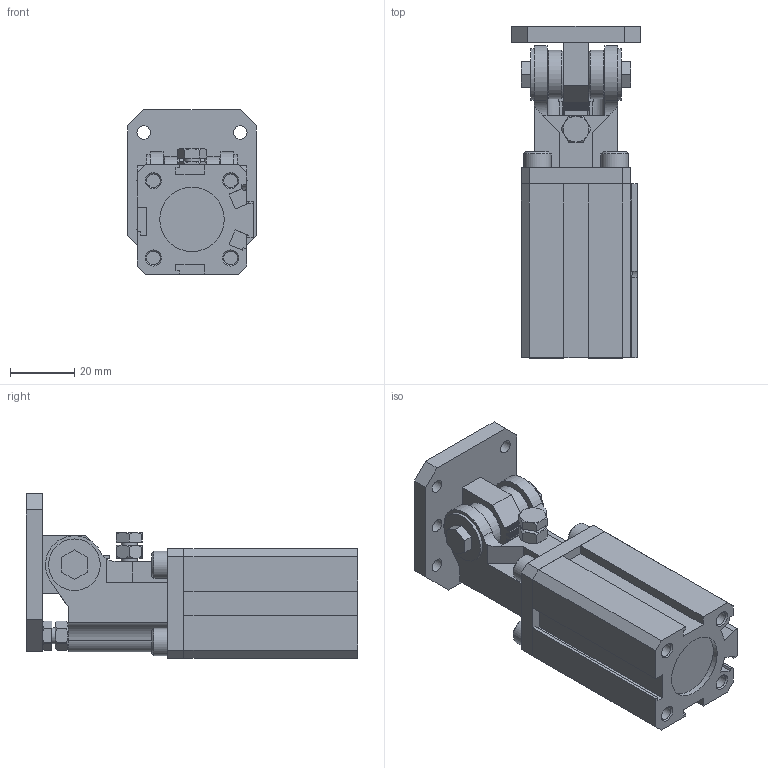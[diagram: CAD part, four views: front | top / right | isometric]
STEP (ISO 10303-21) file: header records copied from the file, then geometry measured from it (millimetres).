
FILE_DESCRIPTION(/* description */ (''),/* implementation_level */ '2;1');
FILE_NAME(/* name */ 'DHR2C-20M30ZG-ZB.stp',/* time_stamp */ '2025-03-17T15:27:43+08:00',/* author */ (''),/* organization */ (''),/* preprocessor_version */ 'ST-DEVELOPER v15',/* originating_system */ 'SIEMENS PLM Software NX 10.0',/* authorisation */ '');
FILE_SCHEMA (('AP203_CONFIGURATION_CONTROLLED_3D_DESIGN_OF_MECHANICAL_PARTS_AND_ASSEMBLIES_MIM_LF { 1 0 10303 403 2 1 2}'));
Length unit declared in the file: millimetre
Products named in the file (1): Admi3398407E8sbe
Bounding box: 40 x 103 x 51 mm (x, y, z)
Volume: 75568.6 mm3; surface area: 33628.7 mm2
Topology: 3 solids, 6 shells, 1329 faces, 3824 edges, 2532 vertices
Faces by surface type: plane 1142, cylinder 114, cone 73
Full cylindrical faces by diameter (mm): 2 x2, 3.3 x2, 4.2 x13, 5 x4, 8 x2, 8.5 x4, 15 x2, 16 x2, 20 x2
Entity records: 42771 total; most frequent: CARTESIAN_POINT 8010, ORIENTED_EDGE 7470, DIRECTION 6691, EDGE_CURVE 3735, LINE 3217, VECTOR 3217, VERTEX_POINT 2510, AXIS2_PLACEMENT_3D 1737
